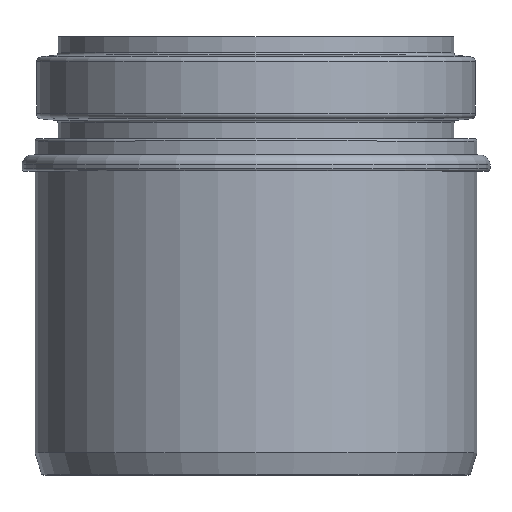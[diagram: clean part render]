
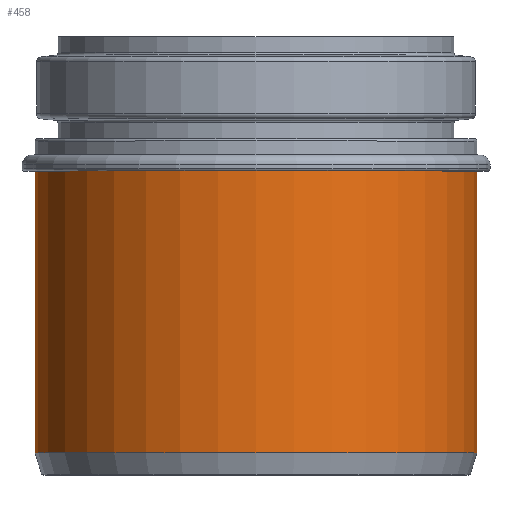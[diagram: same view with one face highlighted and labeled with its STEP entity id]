
A CAD part, top view. The second image highlights one B-rep face of the part: STEP entity #458.
In plain terms, the highlighted cylindrical face has radius 45.1 mm (diameter 90.2 mm), a full revolution.
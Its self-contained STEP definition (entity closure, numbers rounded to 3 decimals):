
#43=CYLINDRICAL_SURFACE($,#534,45.1);
#77=FACE_BOUND($,#173,.T.);
#109=FACE_OUTER_BOUND($,#172,.T.);
#172=EDGE_LOOP($,(#374));
#173=EDGE_LOOP($,(#375));
#179=CIRCLE($,#469,45.1);
#212=CIRCLE($,#532,45.1);
#217=VERTEX_POINT($,#698);
#250=VERTEX_POINT($,#798);
#255=EDGE_CURVE($,#217,#217,#179,.T.);
#292=EDGE_CURVE($,#250,#250,#212,.T.);
#374=ORIENTED_EDGE($,*,*,#255,.F.);
#375=ORIENTED_EDGE($,*,*,#292,.F.);
#458=ADVANCED_FACE($,(#109,#77),#43,.T.);
#469=AXIS2_PLACEMENT_3D($,#699,#550,#551);
#532=AXIS2_PLACEMENT_3D($,#799,#680,#681);
#534=AXIS2_PLACEMENT_3D($,#802,#684,#685);
#550=DIRECTION('center_axis',(0.,1.,0.));
#551=DIRECTION('ref_axis',(1.,0.,0.));
#680=DIRECTION('center_axis',(0.,-1.,0.));
#681=DIRECTION('ref_axis',(1.,0.,0.));
#684=DIRECTION('center_axis',(0.,1.,0.));
#685=DIRECTION('ref_axis',(1.,0.,0.));
#698=CARTESIAN_POINT('',(-45.1,62.,0.));
#699=CARTESIAN_POINT('Origin',(0.,62.,0.));
#798=CARTESIAN_POINT('',(-45.1,4.5,0.));
#799=CARTESIAN_POINT('Origin',(0.,4.5,0.));
#802=CARTESIAN_POINT('Origin',(0.,0.,0.));
